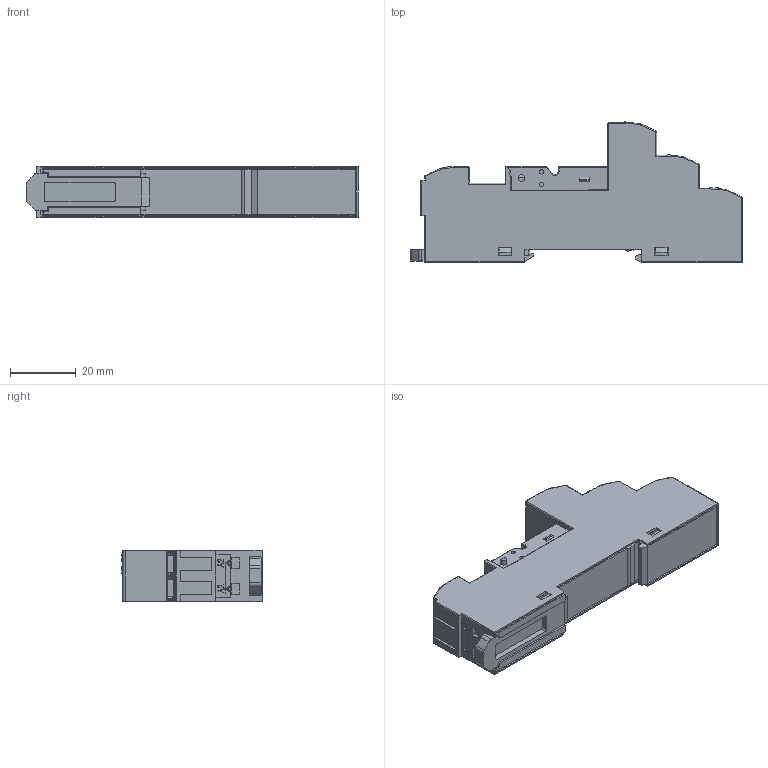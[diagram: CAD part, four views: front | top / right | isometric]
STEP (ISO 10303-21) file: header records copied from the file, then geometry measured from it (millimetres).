
FILE_DESCRIPTION (( 'STEP AP203' ), '1' );
FILE_NAME ('SRC05-ST 俋倛.STEP', '2023-05-13T06:39:47', ( '' ), ( '' ), 'SwSTEP 2.0', 'SolidWorks 2018', '' );
FILE_SCHEMA (( 'CONFIG_CONTROL_DESIGN' ));
Length unit declared in the file: millimetre
Products named in the file (1): SRC05-ST 俋倛
Bounding box: 101.2 x 42.68 x 15.85 mm (x, y, z)
Volume: 42119.5 mm3; surface area: 12678.9 mm2
Topology: 1 solids, 4 shells, 1022 faces, 2824 edges, 1830 vertices
Faces by surface type: plane 615, cylinder 296, bspline 36, cone 35, torus 26, sphere 14
Entity records: 33902 total; most frequent: CARTESIAN_POINT 8912, ORIENTED_EDGE 5620, DIRECTION 4689, EDGE_CURVE 2810, LINE 1927, VECTOR 1927, VERTEX_POINT 1830, AXIS2_PLACEMENT_3D 1381
